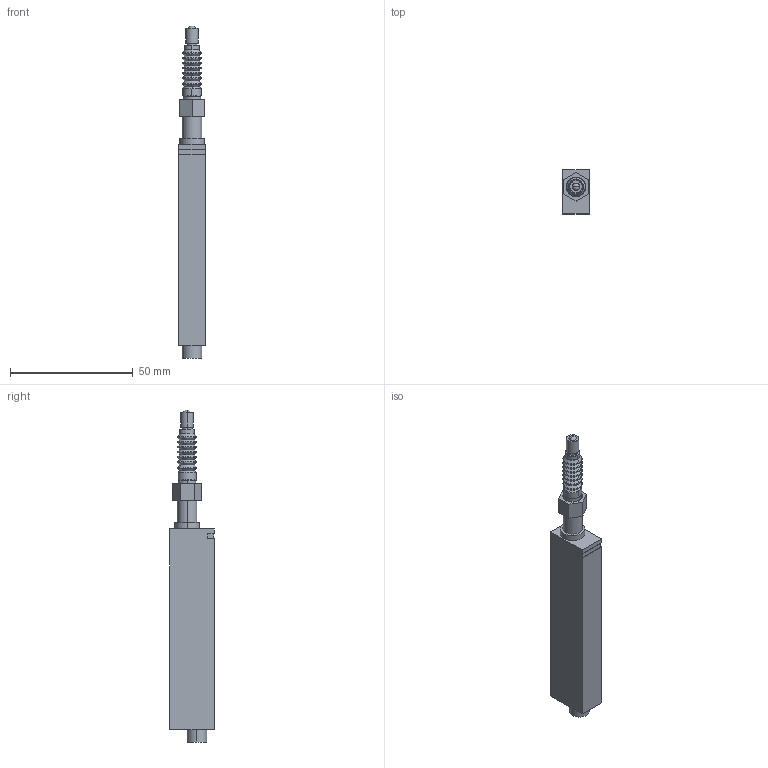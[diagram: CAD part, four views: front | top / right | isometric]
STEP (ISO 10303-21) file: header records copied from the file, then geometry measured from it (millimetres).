
FILE_DESCRIPTION (( 'STEP AP203' ), '1' );
FILE_NAME ('hg-s1010.STEP', '2015-10-05T02:50:16', ( '**********' ), ( '**********' ), 'SwSTEP 2.0', 'SolidWorks 2010', '' );
FILE_SCHEMA (( 'CONFIG_CONTROL_DESIGN' ));
Length unit declared in the file: millimetre
Products named in the file (4): hg-s1010; hg-s1010_nut; hg-s1010_rubber
Assembly tree (3 placements, depth 2):
  hg-s1010
    hg-s1010_nut
    hg-s1010_rubber
    hg-s1010
Bounding box: 11 x 18 x 135.5 mm (x, y, z)
Volume: 18360.9 mm3; surface area: 7984.9 mm2
Topology: 5 solids, 5 shells, 199 faces, 450 edges, 271 vertices
Faces by surface type: bspline 66, cone 62, plane 37, cylinder 32, sphere 2
Entity records: 6834 total; most frequent: CARTESIAN_POINT 2310, ORIENTED_EDGE 900, DIRECTION 862, EDGE_CURVE 450, AXIS2_PLACEMENT_3D 357, VERTEX_POINT 271, CIRCLE 218, EDGE_LOOP 213
